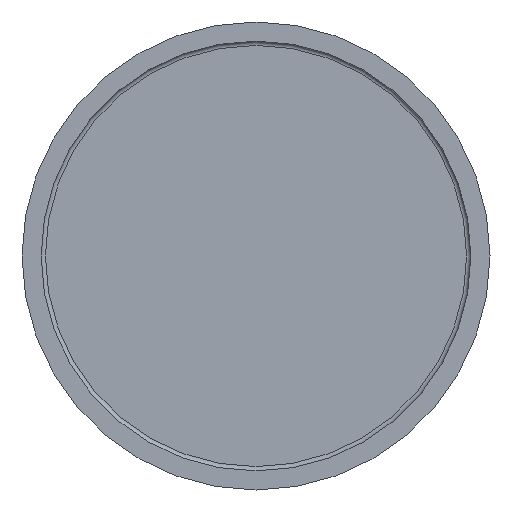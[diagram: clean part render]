
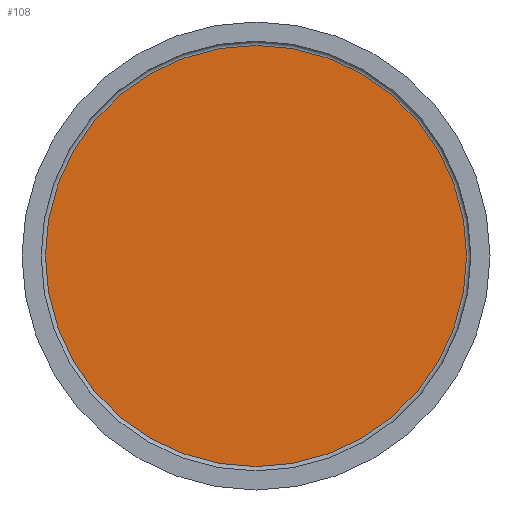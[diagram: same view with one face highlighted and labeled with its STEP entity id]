
A CAD part, left-side view. The second image highlights one B-rep face of the part: STEP entity #108.
In plain terms, the highlighted planar face has unit normal (-1, 0, 0).
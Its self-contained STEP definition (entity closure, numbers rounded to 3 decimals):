
#15=PLANE($,#125);
#31=FACE_OUTER_BOUND($,#44,.T.);
#44=EDGE_LOOP($,(#84));
#56=CIRCLE($,#126,49.5);
#64=VERTEX_POINT($,#185);
#72=EDGE_CURVE($,#64,#64,#56,.T.);
#84=ORIENTED_EDGE($,*,*,#72,.F.);
#108=ADVANCED_FACE($,(#31),#15,.T.);
#125=AXIS2_PLACEMENT_3D($,#184,#154,#155);
#126=AXIS2_PLACEMENT_3D($,#186,#156,#157);
#154=DIRECTION('center_axis',(-1.,0.,0.));
#155=DIRECTION('ref_axis',(0.,0.,1.));
#156=DIRECTION('center_axis',(1.,0.,0.));
#157=DIRECTION('ref_axis',(0.,0.,-1.));
#184=CARTESIAN_POINT('Origin',(10.5,49.5,0.));
#185=CARTESIAN_POINT('',(10.5,49.5,0.));
#186=CARTESIAN_POINT('Origin',(10.5,0.,0.));
